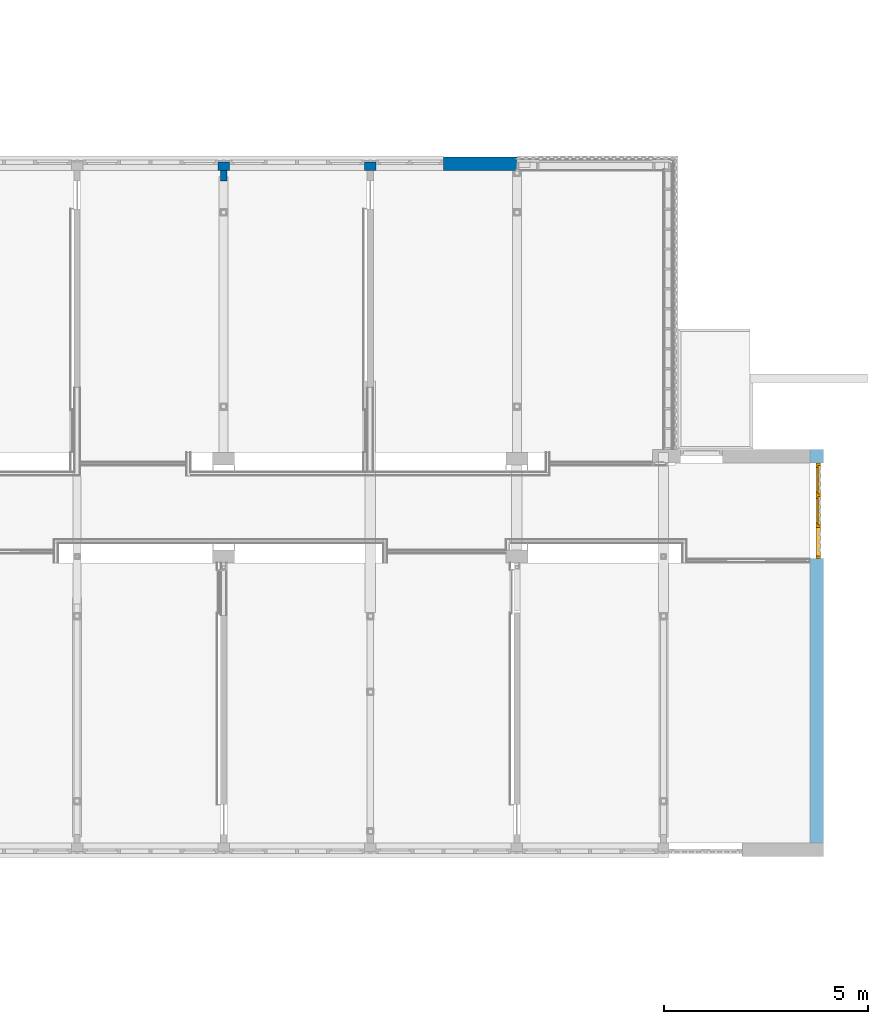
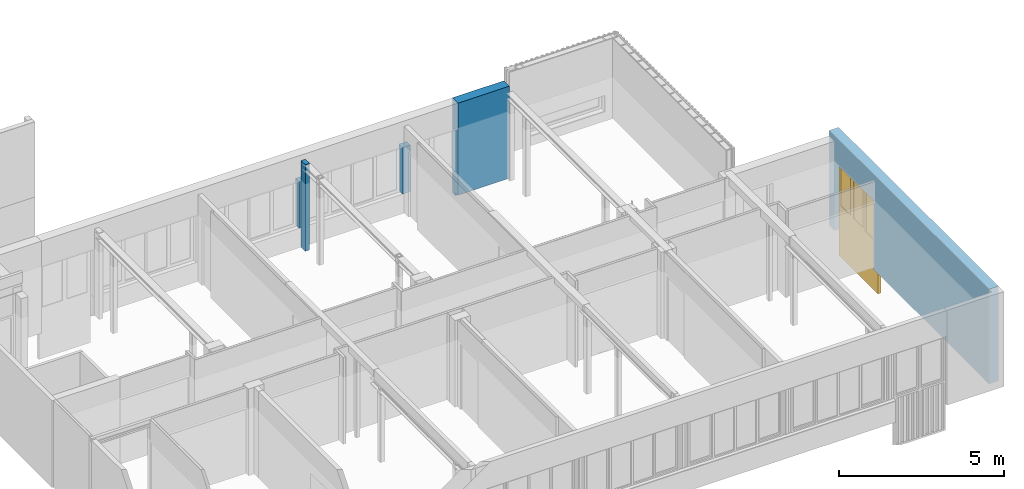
# One storey, part 54 of 99: 4 walls, 1 window, 1 opening, plus 1 element that does not belong to this part.
"""IFC2X3 building model written with IfcOpenShell, lengths in millimetres."""

from ifc_helpers import new_model, entity, si_unit, converted_unit, derived_unit, money_unit, direction, frame, origin_with_axes, place, context, subcontext, project, spatial, open_shell, faceted_brep, surface_model, material, type_object, element, fill, save


model = new_model("IFC2X3")

# Units and contexts
model_context = context("Model", 3, precision=0.01, world=origin_with_axes(), true_north=direction((0.0, 1.0)))
body_context = subcontext(model_context, "Body", "Model", "MODEL_VIEW")
ifc_project = project(units=[si_unit("LENGTHUNIT", "METRE", prefix="MILLI"), si_unit("AREAUNIT", "SQUARE_METRE"), si_unit("VOLUMEUNIT", "CUBIC_METRE"), converted_unit("PLANEANGLEUNIT", "DEGREE", entity("IfcPlaneAngleMeasure", 0.0174532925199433), si_unit("PLANEANGLEUNIT", "RADIAN"), dimensions=[0, 0, 0, 0, 0, 0, 0]), money_unit("EUR"), converted_unit("TIMEUNIT", "Year", entity("IfcTimeMeasure", 31557600.0), si_unit("TIMEUNIT", "SECOND"), dimensions=[0, 0, 1, 0, 0, 0, 0]), si_unit("MASSUNIT", "GRAM", prefix="KILO"), si_unit("THERMODYNAMICTEMPERATUREUNIT", "DEGREE_CELSIUS"), si_unit("LUMINOUSINTENSITYUNIT", "LUMEN"), si_unit("ENERGYUNIT", "JOULE", prefix="MEGA"), derived_unit("THERMALCONDUCTANCEUNIT", [(si_unit("POWERUNIT", "WATT"), 1), (si_unit("LENGTHUNIT", "METRE"), -1), (si_unit("THERMODYNAMICTEMPERATUREUNIT", "KELVIN"), -1)]), derived_unit("SPECIFICHEATCAPACITYUNIT", [(si_unit("ENERGYUNIT", "JOULE"), 1), (si_unit("MASSUNIT", "GRAM", prefix="KILO"), -1), (si_unit("THERMODYNAMICTEMPERATUREUNIT", "KELVIN"), -1)]), derived_unit("MASSDENSITYUNIT", [(si_unit("MASSUNIT", "GRAM", prefix="KILO"), 1), (si_unit("VOLUMEUNIT", "CUBIC_METRE"), -1)])], contexts=[model_context])

# Site, building, storey
site_placement = place(None, origin_with_axes())
site = spatial("IfcSite", under=ifc_project, at=site_placement, Name="Site", CompositionType="ELEMENT")
building_placement = place(site_placement, origin_with_axes())
building = spatial("IfcBuilding", under=site, at=building_placement, Name="Naam gebouw", CompositionType="ELEMENT")
storey_placement = place(building_placement, frame((0.0, 0.0, 7650.0), z_axis=(0.0, 0.0, 1.0), x_axis=(1.0, 0.0, 0.0)))
storey = spatial("IfcBuildingStorey", under=building, at=storey_placement, Name="2e verdieping N", CompositionType="ELEMENT", Elevation=7650.0)

# Wall
ifc_material_1 = material(Name="ALG - CONSTRUCTIEF")
wall_type_1 = type_object("IfcWallType", Name="ALG - CONSTRUCTIEF 150", PredefinedType="NOTDEFINED")
wall_1_placement = place(storey_placement, frame((43199.99999999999, 27250.91242510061, -99.99999999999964), z_axis=(0.0, 0.0, 1.0), x_axis=(0.0, 1.0, 0.0)))
element("IfcWall", 1, at=wall_1_placement, inside=storey, type_object=wall_type_1, material=ifc_material_1, Name="_Wand-x", context=body_context, shape_type="Brep", body=[
    faceted_brep([(254.999999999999, -75.00000000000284, 99.99999999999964), (254.999999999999, 75.00000000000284, 99.99999999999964), (255.0000000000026, 75.00000000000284, 3299.999999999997), (255.0000000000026, -75.00000000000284, 3299.999999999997), (0.0, -75.00000000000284, 99.99999999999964), (0.0, 75.00000000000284, 99.99999999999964), (0.0, 75.00000000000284, 3299.999999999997), (0.0, -75.00000000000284, 3299.999999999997)], [[[0, 1, 2, 3]], [[4, 5, 1, 0]], [[1, 5, 6, 2]], [[2, 6, 7, 3]], [[4, 0, 3, 7]], [[5, 4, 7, 6]]]),
])

# Wall, opening, window
wall_type_2 = type_object("IfcWallType", Name="ALG - CONSTRUCTIEF 330", PredefinedType="NOTDEFINED")
wall_2_placement = place(storey_placement, frame((57599.99999999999, 20655.9124251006, -99.99999999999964), z_axis=(0.0, 0.0, 1.0), x_axis=(0.0, -1.0, 0.0)))
wall_2 = element("IfcWall", 2, at=wall_2_placement, inside=storey, type_object=wall_type_2, material=ifc_material_1, Name="_Wand-x", context=body_context, shape_type="Brep", body=[
    faceted_brep([(2684.999999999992, 329.9999999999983, 2540.000000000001), (2684.999999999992, 0.0, 2540.000000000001), (329.9999999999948, 0.0, 2540.000000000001), (329.9999999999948, 329.9999999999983, 2540.000000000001), (2684.999999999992, 259.999999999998, 0.0), (2684.999999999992, 0.0, 0.0), (2684.999999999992, 329.9999999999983, 0.0), (9664.999999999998, 0.0, 0.0), (9664.999999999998, 0.0, 3500.0), (0.0, 0.0, 3500.0), (0.0, 0.0, 3300.00002384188), (0.0, 0.0, 0.0), (329.9999999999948, 0.0, 0.0), (329.9999999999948, 259.999999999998, 0.0), (329.9999999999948, 329.9999999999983, 0.0), (0.0, 329.9999999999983, 3500.0), (9664.999999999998, 329.9999999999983, 3500.0), (9664.999999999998, 329.9999999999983, 0.0), (0.0, 329.9999999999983, 0.0), (0.0, 329.9999999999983, 3300.00002384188)], [[[0, 1, 2, 3]], [[4, 5, 1, 0, 6]], [[1, 5, 7, 8, 9, 10, 11, 12, 2]], [[3, 2, 12, 13, 14]], [[15, 16, 17, 6, 0, 3, 14, 18, 19]], [[5, 4, 6, 17, 7]], [[16, 8, 7, 17]], [[15, 9, 8, 16]], [[18, 11, 10, 9, 15, 19]], [[13, 12, 11, 18, 14]]]),
])
opening_placement = place(wall_2_placement, frame((1507.499999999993, 0.0, -959.9999999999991), z_axis=(0.0, 0.0, 1.0), x_axis=(1.0, 0.0, 0.0)))
opening = element("IfcOpeningElement", 3, at=opening_placement, cuts=wall_2, Name="_Merk-054", context=body_context, shape_type="Brep", body=[
    faceted_brep([(-1177.499999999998, 259.999999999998, 0.0), (-1177.499999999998, 259.999999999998, 3500.0), (-1177.499999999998, 330.999999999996, 3500.0), (-1177.499999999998, 330.999999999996, 0.0), (-1177.499999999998, -0.9999999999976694, 0.0), (-1177.499999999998, -0.9999999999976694, 3500.0), (1177.499999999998, 259.999999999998, 3500.0), (1177.499999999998, 330.999999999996, 3500.0), (1177.499999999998, -0.9999999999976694, 3500.0), (1177.499999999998, 330.999999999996, 0.0), (1177.499999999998, 259.999999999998, 0.0), (1177.499999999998, -0.9999999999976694, 0.0)], [[[0, 1, 2, 3]], [[1, 0, 4, 5]], [[6, 7, 2, 1, 5, 8]], [[7, 9, 3, 2]], [[0, 3, 9, 10, 11, 4]], [[5, 4, 11, 8]], [[6, 10, 9, 7]], [[10, 6, 8, 11]]]),
])
window_style = type_object("IfcWindowStyle", Name="R3 bl ol 26", ConstructionType="NOTDEFINED", OperationType="USERDEFINED", ParameterTakesPrecedence=False, Sizeable=False)
window_placement = place(opening_placement, frame((1177.499999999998, 0.0, 0.0), z_axis=(0.0, 0.0, 1.0), x_axis=(-1.0, 0.0, 0.0)))
window = element("IfcWindow", 4, at=window_placement, inside=storey, type_object=window_style, Name="_Merk-054", ObjectType="WINDOW", OverallHeight=3500.0, OverallWidth=2355.0, context=body_context, shape_type="SurfaceModel", body=[
    faceted_brep([(2304.999999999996, -146.0000000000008, 3433.0), (2304.999999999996, -200.0000000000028, 3433.0), (2287.999999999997, -200.0000000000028, 3433.0), (2287.999999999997, -260.0000000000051, 3433.0), (2354.999999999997, -260.0000000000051, 3433.0), (2354.999999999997, -146.0000000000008, 3433.0), (2304.999999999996, -146.0000000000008, 1830.000000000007), (2304.999999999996, -200.0000000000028, 1830.000000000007), (2287.999999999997, -200.0000000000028, 1847.000000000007), (2287.999999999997, -200.0000000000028, 1830.000000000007), (2287.999999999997, -259.999999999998, 1847.000000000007), (2287.999999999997, -259.999999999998, 1780.000000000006), (2287.999999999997, -259.999999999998, 67.00000000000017), (2354.999999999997, -259.999999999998, 67.00000000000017), (2354.999999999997, -146.0000000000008, 67.00000000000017), (2287.999999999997, -146.0000000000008, 67.00000000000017), (2287.999999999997, -146.0000000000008, 1780.000000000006), (2287.999999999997, -146.0000000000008, 1830.000000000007)], [[[0, 1, 2, 3, 4, 5]], [[1, 0, 6, 7]], [[8, 2, 1, 7, 9]], [[2, 8, 10, 3]], [[10, 11, 12, 13, 4, 3]], [[5, 4, 13, 14]], [[6, 0, 5, 14, 15, 16, 17]], [[6, 17, 9, 7]], [[9, 17, 16, 11, 10, 8]], [[15, 12, 11, 16]], [[14, 13, 12, 15]]]),
    faceted_brep([(829.6666666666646, -200.0000000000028, 3433.0), (812.6666666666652, -200.0000000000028, 3433.0), (812.6666666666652, -146.0000000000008, 3433.0), (762.6666666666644, -146.0000000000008, 3433.0), (762.6666666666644, -259.999999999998, 3433.0), (829.6666666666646, -259.999999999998, 3433.0), (829.6666666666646, -200.0000000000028, 1847.000000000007), (829.6666666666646, -200.0000000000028, 1830.000000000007), (812.6666666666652, -200.0000000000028, 1830.000000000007), (812.6666666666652, -146.0000000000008, 1830.000000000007), (829.6666666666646, -146.0000000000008, 1830.000000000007), (829.6666666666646, -146.0000000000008, 1780.000000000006), (829.6666666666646, -146.0000000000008, 67.00000000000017), (762.6666666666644, -146.0000000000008, 67.00000000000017), (762.6666666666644, -146.0000000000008, 1780.000000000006), (762.6666666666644, -146.0000000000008, 1847.000000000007), (762.6666666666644, -259.999999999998, 1847.000000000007), (829.6666666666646, -259.999999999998, 1780.000000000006), (829.6666666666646, -259.999999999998, 1847.000000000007), (762.6666666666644, -259.999999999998, 1780.000000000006), (762.6666666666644, -259.999999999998, 67.00000000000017), (829.6666666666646, -259.999999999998, 67.00000000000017)], [[[0, 1, 2, 3, 4, 5]], [[1, 0, 6, 7, 8]], [[9, 2, 1, 8]], [[9, 10, 11, 12, 13, 14, 15, 3, 2]], [[15, 16, 4, 3]], [[17, 18, 5, 4, 16, 19, 20, 21]], [[6, 0, 5, 18]], [[7, 6, 18, 17, 11, 10]], [[10, 9, 8, 7]], [[11, 17, 21, 12]], [[12, 21, 20, 13]], [[13, 20, 19, 14]], [[14, 19, 16, 15]]]),
    faceted_brep([(1592.333333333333, -200.0000000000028, 3433.0), (1575.333333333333, -200.0000000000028, 3433.0), (1575.333333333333, -146.0000000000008, 3433.0), (1542.333333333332, -146.0000000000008, 3433.0), (1542.333333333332, -200.0000000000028, 3433.0), (1525.333333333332, -200.0000000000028, 3433.0), (1525.333333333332, -259.999999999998, 3433.0), (1592.333333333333, -259.999999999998, 3433.0), (1592.333333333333, -200.0000000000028, 1847.000000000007), (1592.333333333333, -200.0000000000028, 1830.000000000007), (1575.333333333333, -200.0000000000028, 1830.000000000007), (1575.333333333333, -146.0000000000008, 1830.000000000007), (1592.333333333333, -146.0000000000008, 1830.000000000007), (1592.333333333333, -146.0000000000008, 1780.000000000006), (1592.333333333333, -146.0000000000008, 67.00000000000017), (1525.333333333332, -146.0000000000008, 67.00000000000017), (1525.333333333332, -146.0000000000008, 1780.000000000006), (1525.333333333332, -146.0000000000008, 1830.000000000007), (1542.333333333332, -146.0000000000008, 1830.000000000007), (1542.333333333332, -200.0000000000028, 1830.000000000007), (1525.333333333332, -200.0000000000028, 1847.000000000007), (1525.333333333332, -200.0000000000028, 1830.000000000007), (1525.333333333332, -259.999999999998, 1847.000000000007), (1525.333333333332, -259.999999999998, 1780.000000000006), (1525.333333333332, -259.999999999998, 67.00000000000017), (1592.333333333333, -259.999999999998, 67.00000000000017), (1592.333333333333, -259.999999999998, 1780.000000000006), (1592.333333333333, -259.999999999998, 1847.000000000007)], [[[0, 1, 2, 3, 4, 5, 6, 7]], [[1, 0, 8, 9, 10]], [[11, 2, 1, 10]], [[11, 12, 13, 14, 15, 16, 17, 18, 3, 2]], [[4, 3, 18, 19]], [[20, 5, 4, 19, 21]], [[5, 20, 22, 6]], [[7, 6, 22, 23, 24, 25, 26, 27]], [[8, 0, 7, 27]], [[9, 8, 27, 26, 13, 12]], [[12, 11, 10, 9]], [[13, 26, 25, 14]], [[14, 25, 24, 15]], [[15, 24, 23, 16]], [[21, 17, 16, 23, 22, 20]], [[18, 17, 21, 19]]]),
    faceted_brep([(1525.333333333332, -200.0000000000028, 1847.000000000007), (829.6666666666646, -200.0000000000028, 1847.000000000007), (829.6666666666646, -259.999999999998, 1847.000000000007), (1525.333333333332, -259.999999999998, 1847.000000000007), (829.6666666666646, -200.0000000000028, 1830.000000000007), (1525.333333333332, -200.0000000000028, 1830.000000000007), (829.6666666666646, -146.0000000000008, 1830.000000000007), (829.6666666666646, -146.0000000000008, 1780.000000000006), (829.6666666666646, -259.999999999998, 1780.000000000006), (1525.333333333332, -259.999999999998, 1780.000000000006), (1525.333333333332, -146.0000000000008, 1780.000000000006), (1525.333333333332, -146.0000000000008, 1830.000000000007)], [[[0, 1, 2, 3]], [[4, 1, 0, 5]], [[4, 6, 7, 8, 2, 1]], [[2, 8, 9, 3]], [[5, 0, 3, 9, 10, 11]], [[11, 6, 4, 5]], [[6, 11, 10, 7]], [[10, 9, 8, 7]]]),
    faceted_brep([(2287.999999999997, -200.0000000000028, 1847.000000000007), (1592.333333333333, -200.0000000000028, 1847.000000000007), (1592.333333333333, -259.999999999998, 1847.000000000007), (2287.999999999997, -259.999999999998, 1847.000000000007), (1592.333333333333, -200.0000000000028, 1830.000000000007), (2287.999999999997, -200.0000000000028, 1830.000000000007), (1592.333333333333, -146.0000000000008, 1830.000000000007), (1592.333333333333, -146.0000000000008, 1780.000000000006), (1592.333333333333, -259.999999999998, 1780.000000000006), (2287.999999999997, -259.999999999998, 1780.000000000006), (2287.999999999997, -146.0000000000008, 1780.000000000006), (2287.999999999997, -146.0000000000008, 1830.000000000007)], [[[0, 1, 2, 3]], [[4, 1, 0, 5]], [[4, 6, 7, 8, 2, 1]], [[9, 3, 2, 8]], [[5, 0, 3, 9, 10, 11]], [[11, 6, 4, 5]], [[6, 11, 10, 7]], [[10, 9, 8, 7]]]),
    faceted_brep([(2304.999999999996, -146.0000000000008, 3433.0), (2304.999999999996, -146.0000000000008, 3449.999999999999), (1575.333333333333, -146.0000000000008, 3449.999999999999), (1575.333333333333, -146.0000000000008, 3433.0), (1542.333333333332, -146.0000000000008, 3433.0), (1542.333333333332, -146.0000000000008, 3449.999999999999), (812.6666666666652, -146.0000000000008, 3449.999999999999), (812.6666666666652, -146.0000000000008, 3433.0), (762.6666666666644, -146.0000000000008, 3433.0), (67.00000000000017, -146.0000000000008, 3433.0), (0.0, -146.0000000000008, 3433.0), (0.0, -146.0000000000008, 3500.0), (2354.999999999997, -146.0000000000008, 3500.0), (2354.999999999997, -146.0000000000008, 3433.0), (2304.999999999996, -200.0000000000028, 3433.0), (2304.999999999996, -200.0000000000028, 3449.999999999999), (1575.333333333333, -200.0000000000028, 3449.999999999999), (1575.333333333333, -200.0000000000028, 3433.0), (1592.333333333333, -200.0000000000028, 3433.0), (1592.333333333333, -259.999999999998, 3433.0), (1525.333333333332, -259.999999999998, 3433.0), (1525.333333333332, -200.0000000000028, 3433.0), (1542.333333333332, -200.0000000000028, 3433.0), (1542.333333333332, -200.0000000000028, 3449.999999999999), (812.6666666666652, -200.0000000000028, 3449.999999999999), (812.6666666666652, -200.0000000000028, 3433.0), (829.6666666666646, -200.0000000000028, 3433.0), (829.6666666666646, -259.999999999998, 3433.0), (762.6666666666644, -259.999999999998, 3433.0), (67.00000000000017, -259.999999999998, 3433.0), (0.0, -259.999999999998, 3433.0), (0.0, -259.999999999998, 3500.0), (2354.999999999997, -260.0000000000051, 3500.0), (2354.999999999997, -260.0000000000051, 3433.0), (2287.999999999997, -260.0000000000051, 3433.0), (2287.999999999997, -200.0000000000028, 3433.0)], [[[0, 1, 2, 3, 4, 5, 6, 7, 8, 9, 10, 11, 12, 13]], [[1, 0, 14, 15]], [[2, 1, 15, 16]], [[3, 2, 16, 17]], [[17, 18, 19, 20, 21, 22, 4, 3]], [[5, 4, 22, 23]], [[6, 5, 23, 24]], [[7, 6, 24, 25]], [[25, 26, 27, 28, 8, 7]], [[8, 28, 29, 9]], [[9, 29, 30, 10]], [[10, 30, 31, 11]], [[11, 31, 32, 12]], [[12, 32, 33, 13]], [[14, 0, 13, 33, 34, 35]], [[18, 17, 16, 15, 14, 35]], [[18, 35, 34, 19]], [[20, 19, 34, 33, 32, 31, 30, 29, 28, 27]], [[26, 21, 20, 27]], [[26, 25, 24, 23, 22, 21]]]),
    faceted_brep([(67.00000000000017, -259.999999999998, 67.00000000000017), (0.0, -259.999999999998, 67.00000000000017), (0.0, -146.0000000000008, 67.00000000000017), (67.00000000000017, -146.0000000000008, 67.00000000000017), (67.00000000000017, -259.999999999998, 1780.000000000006), (67.00000000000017, -259.999999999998, 1847.000000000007), (67.00000000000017, -259.999999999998, 3433.0), (0.0, -259.999999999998, 3433.0), (0.0, -146.0000000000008, 3433.0), (67.00000000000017, -146.0000000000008, 3433.0), (67.00000000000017, -146.0000000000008, 1847.000000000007), (67.00000000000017, -146.0000000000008, 1780.000000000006)], [[[0, 1, 2, 3]], [[0, 4, 5, 6, 7, 1]], [[1, 7, 8, 2]], [[3, 2, 8, 9, 10, 11]], [[4, 0, 3, 11]], [[5, 4, 11, 10]], [[6, 5, 10, 9]], [[7, 6, 9, 8]]]),
    faceted_brep([(762.6666666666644, -259.999999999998, 1847.000000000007), (762.6666666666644, -259.999999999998, 1780.000000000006), (762.6666666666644, -146.0000000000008, 1780.000000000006), (762.6666666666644, -146.0000000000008, 1847.000000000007), (67.00000000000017, -259.999999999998, 1847.000000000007), (67.00000000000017, -259.999999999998, 1780.000000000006), (67.00000000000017, -146.0000000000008, 1780.000000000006), (67.00000000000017, -146.0000000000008, 1847.000000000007)], [[[0, 1, 2, 3]], [[0, 4, 5, 1]], [[1, 5, 6, 2]], [[3, 2, 6, 7]], [[4, 0, 3, 7]], [[5, 4, 7, 6]]]),
    faceted_brep([(2287.999999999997, -259.999999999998, 67.00000000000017), (2354.999999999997, -259.999999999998, 67.00000000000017), (2354.999999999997, -146.0000000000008, 67.00000000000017), (2287.999999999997, -146.0000000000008, 67.00000000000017), (1592.333333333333, -259.999999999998, 67.00000000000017), (1525.333333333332, -259.999999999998, 67.00000000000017), (829.6666666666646, -259.999999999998, 67.00000000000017), (762.6666666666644, -259.999999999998, 67.00000000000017), (67.00000000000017, -259.999999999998, 67.00000000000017), (0.0, -259.999999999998, 67.00000000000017), (0.0, -259.999999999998, 0.0), (2354.999999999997, -259.999999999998, 0.0), (2354.999999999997, -146.0000000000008, 0.0), (0.0, -146.0000000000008, 0.0), (0.0, -146.0000000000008, 67.00000000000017), (67.00000000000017, -146.0000000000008, 67.00000000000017), (762.6666666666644, -146.0000000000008, 67.00000000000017), (829.6666666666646, -146.0000000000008, 67.00000000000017), (1525.333333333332, -146.0000000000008, 67.00000000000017), (1592.333333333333, -146.0000000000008, 67.00000000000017)], [[[0, 1, 2, 3]], [[0, 4, 5, 6, 7, 8, 9, 10, 11, 1]], [[1, 11, 12, 2]], [[3, 2, 12, 13, 14, 15, 16, 17, 18, 19]], [[4, 0, 3, 19]], [[5, 4, 19, 18]], [[6, 5, 18, 17]], [[7, 6, 17, 16]], [[8, 7, 16, 15]], [[9, 8, 15, 14]], [[10, 9, 14, 13]], [[11, 10, 13, 12]]]),
    faceted_brep([(2237.999999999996, -200.0000000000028, 3383.000000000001), (2304.999999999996, -200.0000000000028, 3383.000000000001), (2304.999999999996, -146.0000000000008, 3383.000000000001), (2237.999999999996, -146.0000000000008, 3383.000000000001), (2237.999999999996, -200.0000000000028, 1897.000000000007), (2304.999999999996, -200.0000000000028, 1897.000000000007), (2304.999999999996, -146.0000000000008, 1897.000000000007), (2237.999999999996, -146.0000000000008, 1897.000000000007)], [[[0, 1, 2, 3]], [[0, 4, 5, 1]], [[1, 5, 6, 2]], [[3, 2, 6, 7]], [[4, 0, 3, 7]], [[5, 4, 7, 6]]]),
    faceted_brep([(1642.333333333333, -200.0000000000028, 1897.000000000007), (1575.333333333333, -200.0000000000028, 1897.000000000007), (1575.333333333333, -146.0000000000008, 1897.000000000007), (1642.333333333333, -146.0000000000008, 1897.000000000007), (1642.333333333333, -200.0000000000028, 3383.000000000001), (1575.333333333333, -200.0000000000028, 3383.000000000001), (1575.333333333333, -146.0000000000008, 3383.000000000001), (1642.333333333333, -146.0000000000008, 3383.000000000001)], [[[0, 1, 2, 3]], [[0, 4, 5, 1]], [[1, 5, 6, 2]], [[3, 2, 6, 7]], [[4, 0, 3, 7]], [[5, 4, 7, 6]]]),
    faceted_brep([(1575.333333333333, -200.0000000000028, 1830.000000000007), (1575.333333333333, -200.0000000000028, 1897.000000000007), (1575.333333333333, -146.0000000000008, 1897.000000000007), (1575.333333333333, -146.0000000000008, 1830.000000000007), (2304.999999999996, -200.0000000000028, 1830.000000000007), (2304.999999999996, -200.0000000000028, 1897.000000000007), (2237.999999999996, -200.0000000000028, 1897.000000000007), (1642.333333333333, -200.0000000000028, 1897.000000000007), (1642.333333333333, -146.0000000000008, 1897.000000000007), (2237.999999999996, -146.0000000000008, 1897.000000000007), (2304.999999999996, -146.0000000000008, 1897.000000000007), (2304.999999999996, -146.0000000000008, 1830.000000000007)], [[[0, 1, 2, 3]], [[0, 4, 5, 6, 7, 1]], [[1, 7, 8, 2]], [[3, 2, 8, 9, 10, 11]], [[4, 0, 3, 11]], [[5, 4, 11, 10]], [[6, 5, 10, 9]], [[7, 6, 9, 8]]]),
    faceted_brep([(2304.999999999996, -200.0000000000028, 3449.999999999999), (2304.999999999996, -200.0000000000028, 3383.000000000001), (2304.999999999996, -146.0000000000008, 3383.000000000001), (2304.999999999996, -146.0000000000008, 3449.999999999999), (1575.333333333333, -200.0000000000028, 3449.999999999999), (1575.333333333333, -200.0000000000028, 3383.000000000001), (1642.333333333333, -200.0000000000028, 3383.000000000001), (2237.999999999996, -200.0000000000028, 3383.000000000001), (2237.999999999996, -146.0000000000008, 3383.000000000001), (1642.333333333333, -146.0000000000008, 3383.000000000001), (1575.333333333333, -146.0000000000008, 3383.000000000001), (1575.333333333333, -146.0000000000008, 3449.999999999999)], [[[0, 1, 2, 3]], [[0, 4, 5, 6, 7, 1]], [[1, 7, 8, 2]], [[3, 2, 8, 9, 10, 11]], [[4, 0, 3, 11]], [[5, 4, 11, 10]], [[6, 5, 10, 9]], [[7, 6, 9, 8]]]),
    surface_model("IfcShellBasedSurfaceModel", [(2237.999999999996, -182.9999999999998, 1897.000000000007), (2237.999999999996, -182.9999999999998, 3383.000000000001), (1642.333333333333, -182.9999999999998, 3383.000000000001), (1642.333333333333, -182.9999999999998, 1897.000000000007)], [open_shell([[[0, 1, 2, 3]]])]),
    surface_model("IfcShellBasedSurfaceModel", [(2237.999999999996, -163.0000000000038, 1897.000000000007), (1642.333333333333, -163.0000000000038, 1897.000000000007), (1642.333333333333, -163.0000000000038, 3383.000000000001), (2237.999999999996, -163.0000000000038, 3383.000000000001)], [open_shell([[[0, 1, 2, 3]]])]),
    faceted_brep([(1475.333333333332, -200.0000000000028, 3383.000000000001), (1542.333333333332, -200.0000000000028, 3383.000000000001), (1542.333333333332, -146.0000000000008, 3383.000000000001), (1475.333333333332, -146.0000000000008, 3383.000000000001), (1475.333333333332, -200.0000000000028, 1897.000000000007), (1542.333333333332, -200.0000000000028, 1897.000000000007), (1542.333333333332, -146.0000000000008, 1897.000000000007), (1475.333333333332, -146.0000000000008, 1897.000000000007)], [[[0, 1, 2, 3]], [[0, 4, 5, 1]], [[1, 5, 6, 2]], [[3, 2, 6, 7]], [[4, 0, 3, 7]], [[5, 4, 7, 6]]]),
    faceted_brep([(879.6666666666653, -200.0000000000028, 1897.000000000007), (812.6666666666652, -200.0000000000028, 1897.000000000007), (812.6666666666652, -146.0000000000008, 1897.000000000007), (879.6666666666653, -146.0000000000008, 1897.000000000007), (879.6666666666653, -200.0000000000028, 3383.000000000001), (812.6666666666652, -200.0000000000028, 3383.000000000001), (812.6666666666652, -146.0000000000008, 3383.000000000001), (879.6666666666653, -146.0000000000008, 3383.000000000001)], [[[0, 1, 2, 3]], [[0, 4, 5, 1]], [[1, 5, 6, 2]], [[3, 2, 6, 7]], [[4, 0, 3, 7]], [[5, 4, 7, 6]]]),
    faceted_brep([(812.6666666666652, -200.0000000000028, 1830.000000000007), (812.6666666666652, -200.0000000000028, 1897.000000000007), (812.6666666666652, -146.0000000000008, 1897.000000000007), (812.6666666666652, -146.0000000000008, 1830.000000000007), (1542.333333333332, -200.0000000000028, 1830.000000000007), (1542.333333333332, -200.0000000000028, 1897.000000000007), (1475.333333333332, -200.0000000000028, 1897.000000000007), (879.6666666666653, -200.0000000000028, 1897.000000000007), (879.6666666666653, -146.0000000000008, 1897.000000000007), (1475.333333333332, -146.0000000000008, 1897.000000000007), (1542.333333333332, -146.0000000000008, 1897.000000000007), (1542.333333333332, -146.0000000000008, 1830.000000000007)], [[[0, 1, 2, 3]], [[0, 4, 5, 6, 7, 1]], [[1, 7, 8, 2]], [[3, 2, 8, 9, 10, 11]], [[4, 0, 3, 11]], [[5, 4, 11, 10]], [[6, 5, 10, 9]], [[7, 6, 9, 8]]]),
    faceted_brep([(1542.333333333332, -200.0000000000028, 3449.999999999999), (1542.333333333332, -200.0000000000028, 3383.000000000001), (1542.333333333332, -146.0000000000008, 3383.000000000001), (1542.333333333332, -146.0000000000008, 3449.999999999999), (812.6666666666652, -200.0000000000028, 3449.999999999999), (812.6666666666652, -200.0000000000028, 3383.000000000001), (879.6666666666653, -200.0000000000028, 3383.000000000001), (1475.333333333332, -200.0000000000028, 3383.000000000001), (1475.333333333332, -146.0000000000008, 3383.000000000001), (879.6666666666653, -146.0000000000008, 3383.000000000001), (812.6666666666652, -146.0000000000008, 3383.000000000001), (812.6666666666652, -146.0000000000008, 3449.999999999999)], [[[0, 1, 2, 3]], [[0, 4, 5, 6, 7, 1]], [[1, 7, 8, 2]], [[3, 2, 8, 9, 10, 11]], [[4, 0, 3, 11]], [[5, 4, 11, 10]], [[6, 5, 10, 9]], [[7, 6, 9, 8]]]),
    surface_model("IfcShellBasedSurfaceModel", [(1475.333333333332, -182.9999999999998, 1897.000000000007), (1475.333333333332, -182.9999999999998, 3383.000000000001), (879.6666666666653, -182.9999999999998, 3383.000000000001), (879.6666666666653, -182.9999999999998, 1897.000000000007)], [open_shell([[[0, 1, 2, 3]]])]),
    surface_model("IfcShellBasedSurfaceModel", [(1475.333333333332, -163.0000000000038, 1897.000000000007), (879.6666666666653, -163.0000000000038, 1897.000000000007), (879.6666666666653, -163.0000000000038, 3383.000000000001), (1475.333333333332, -163.0000000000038, 3383.000000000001)], [open_shell([[[0, 1, 2, 3]]])]),
    surface_model("IfcShellBasedSurfaceModel", [(762.6666666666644, -210.0000000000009, 1847.000000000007), (762.6666666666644, -210.0000000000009, 3433.0), (67.00000000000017, -210.0000000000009, 3433.0), (67.00000000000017, -210.0000000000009, 1847.000000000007)], [open_shell([[[0, 1, 2, 3]]])]),
    surface_model("IfcShellBasedSurfaceModel", [(762.6666666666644, -189.9999999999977, 1847.000000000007), (67.00000000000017, -189.9999999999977, 1847.000000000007), (67.00000000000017, -189.9999999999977, 3433.0), (762.6666666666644, -190.0000000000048, 3433.0)], [open_shell([[[0, 1, 2, 3]]])]),
    faceted_brep([(2287.999999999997, -200.0000000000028, 67.00000000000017), (1592.333333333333, -200.0000000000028, 67.00000000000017), (1592.333333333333, -146.0000000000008, 67.00000000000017), (2287.999999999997, -146.0000000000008, 67.00000000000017), (2287.999999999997, -200.0000000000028, 1780.000000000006), (1592.333333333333, -200.0000000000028, 1780.000000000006), (1592.333333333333, -146.0000000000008, 1780.000000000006), (2287.999999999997, -146.0000000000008, 1780.000000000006)], [[[0, 1, 2, 3]], [[0, 4, 5, 1]], [[1, 5, 6, 2]], [[3, 2, 6, 7]], [[4, 0, 3, 7]], [[5, 4, 7, 6]]]),
    faceted_brep([(1525.333333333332, -200.0000000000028, 67.00000000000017), (829.6666666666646, -200.0000000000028, 67.00000000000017), (829.6666666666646, -146.0000000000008, 67.00000000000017), (1525.333333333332, -146.0000000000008, 67.00000000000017), (1525.333333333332, -200.0000000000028, 1780.000000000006), (829.6666666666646, -200.0000000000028, 1780.000000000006), (829.6666666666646, -146.0000000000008, 1780.000000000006), (1525.333333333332, -146.0000000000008, 1780.000000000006)], [[[0, 1, 2, 3]], [[0, 4, 5, 1]], [[1, 5, 6, 2]], [[3, 2, 6, 7]], [[4, 0, 3, 7]], [[5, 4, 7, 6]]]),
    faceted_brep([(762.6666666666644, -200.0000000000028, 67.00000000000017), (67.00000000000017, -200.0000000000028, 67.00000000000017), (67.00000000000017, -146.0000000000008, 67.00000000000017), (762.6666666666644, -146.0000000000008, 67.00000000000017), (762.6666666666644, -200.0000000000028, 1780.000000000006), (67.00000000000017, -200.0000000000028, 1780.000000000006), (67.00000000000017, -146.0000000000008, 1780.000000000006), (762.6666666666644, -146.0000000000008, 1780.000000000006)], [[[0, 1, 2, 3]], [[0, 4, 5, 1]], [[1, 5, 6, 2]], [[3, 2, 6, 7]], [[4, 0, 3, 7]], [[5, 4, 7, 6]]]),
])
fill(opening, window)

# Walls
wall_3_placement = place(storey_placement, frame((50399.99999999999, 27505.91242510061, -99.99999999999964), z_axis=(0.0, 0.0, 1.0), x_axis=(-1.0, 0.0, 0.0)))
element("IfcWall", 5, at=wall_3_placement, inside=storey, type_object=wall_type_2, material=ifc_material_1, Name="_Wand-x", context=body_context, shape_type="Brep", body=[
    faceted_brep([(0.0, -329.9999999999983, 3500.0), (0.0, 0.0, 3500.0), (0.0, 0.0, 99.99999999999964), (0.0, -145.6387056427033, 99.99999999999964), (0.0, -145.6387056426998, 0.0), (0.0, -329.9999999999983, 0.0), (1798.819095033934, -329.9999999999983, 3500.0), (1798.819095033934, 0.0, 3500.0), (1798.819095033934, 0.0, 99.99999999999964), (1798.819095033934, -145.6834109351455, 99.99999999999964), (1798.819095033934, -145.6834109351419, 0.0), (1798.819095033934, -330.0000000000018, 0.0)], [[[0, 1, 2, 3, 4, 5]], [[6, 7, 1, 0]], [[2, 1, 7, 8]], [[2, 8, 9, 3]], [[3, 9, 10, 4]], [[10, 11, 5, 4]], [[11, 6, 0, 5]], [[6, 11, 10, 9, 8, 7]]]),
])
ifc_material_2 = material(Name="ALG - GEVEL")
wall_type_3 = type_object("IfcWallType", Name="ALG - GEVEL 260", PredefinedType="NOTDEFINED")
wall_4_placement = place(storey_placement, frame((43337.49999999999, 27765.91242510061, 720.0000000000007), z_axis=(0.0, 0.0, 1.0), x_axis=(-1.0, 0.0, 0.0)))
element("IfcWall", 6, at=wall_4_placement, inside=storey, type_object=wall_type_3, material=ifc_material_2, Name="_Wand-x", context=body_context, shape_type="Brep", body=[
    faceted_brep([(0.0, 43.99999999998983, 1720.000000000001), (0.0, 43.99999999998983, 0.0), (275.0000000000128, 43.99999999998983, 0.0), (275.0000000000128, 43.99999999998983, 1720.000000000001), (0.0, 260.0000000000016, 0.0), (0.0, 260.0000000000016, 1719.999999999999), (275.0000000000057, 260.0000000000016, 0.0), (275.0000000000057, 260.0000000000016, 1719.999999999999)], [[[0, 1, 2, 3]], [[4, 1, 0, 5]], [[2, 1, 4, 6]], [[7, 3, 2, 6]], [[0, 3, 7, 5]], [[6, 4, 5, 7]]]),
])
wall_5_placement = place(storey_placement, frame((46937.49999999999, 27765.91242510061, 720.0000000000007), z_axis=(0.0, 0.0, 1.0), x_axis=(-1.0, 0.0, 0.0)))
element("IfcWall", 7, at=wall_5_placement, inside=storey, type_object=wall_type_3, material=ifc_material_2, Name="_Wand-x", context=body_context, shape_type="Brep", body=[
    faceted_brep([(0.0, 43.99999999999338, 1720.000000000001), (0.0, 43.99999999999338, 0.0), (275.0000000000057, 43.99999999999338, 0.0), (275.0000000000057, 43.99999999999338, 1720.000000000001), (0.0, 260.0000000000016, 0.0), (0.0, 260.0000000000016, 1719.999999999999), (275.0000000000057, 260.0000000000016, 0.0), (275.0000000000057, 260.0000000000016, 1719.999999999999)], [[[0, 1, 2, 3]], [[4, 1, 0, 5]], [[2, 1, 4, 6]], [[7, 3, 2, 6]], [[0, 3, 7, 5]], [[6, 4, 5, 7]]]),
])

save(model, "model.ifc")
